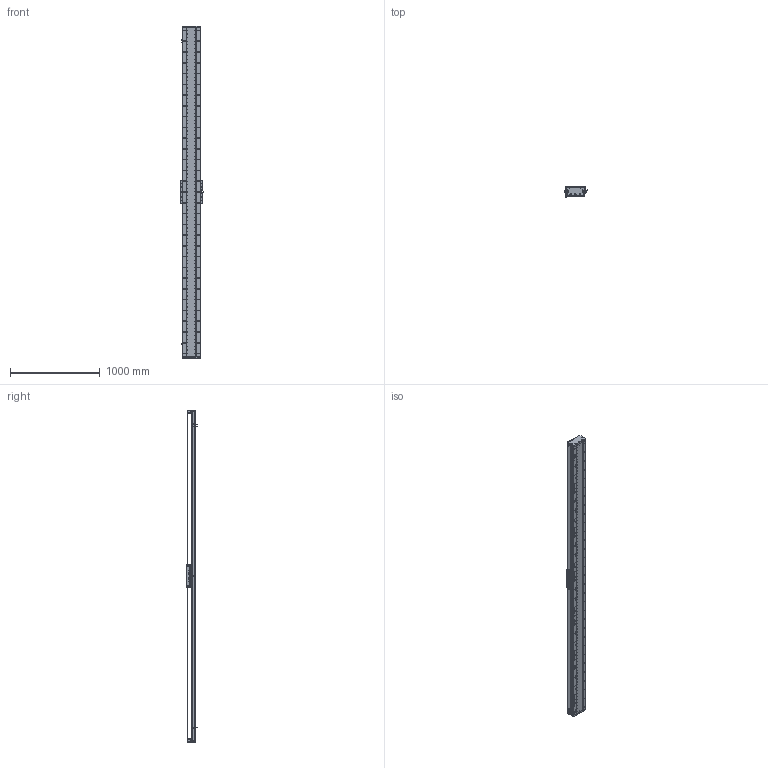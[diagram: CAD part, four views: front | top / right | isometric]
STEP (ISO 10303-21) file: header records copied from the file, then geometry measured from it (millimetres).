
FILE_DESCRIPTION (( 'STEP AP203' ), '1' );
FILE_NAME ('DA-C195-C3-T3360-C010-0.2 眻盄萇儂.STEP', '2025-08-15T01:26:27', ( '' ), ( '' ), 'SwSTEP 2.0', 'SolidWorks 2019', '' );
FILE_SCHEMA (( 'CONFIG_CONTROL_DESIGN' ));
Length unit declared in the file: millimetre
Products named in the file (15): IU-CU195-L 菁釱絳寢; DA-C195-C3-T3360-C010-0.2 眻盄萇儂; DA195詩湍裔啣; CU195-C3賑輸-俋楷; DA195詩湍菜輸; 葩璃 DA95-GT-T-00; LMT黍杅芛; DA165-GYP-00 光电感应片(默认); MS200 棠掑喜S315-T240; IU-CU195-L-00 菁釱(L3660); DA195詩湍郪璃; DA95-HXJ-00 遣喳砎蝶; PM-T45ㄗ侂狟ㄘ; DA-C195-GD-DB-H-00 傷啣; DA195詩湍嶺輸
Assembly tree (29 placements, depth 3):
  DA-C195-C3-T3360-C010-0.2 眻盄萇儂
    DA195詩湍郪璃
      DA195詩湍菜輸  x2
      DA195詩湍裔啣
      DA195詩湍嶺輸  x2
      DA95-HXJ-00 遣喳砎蝶  x8
      DA-C195-GD-DB-H-00 傷啣  x2
    IU-CU195-L 菁釱絳寢
      IU-CU195-L-00 菁釱(L3660)
      葩璃 DA95-GT-T-00  x4
    LMT黍杅芛
    MS200 棠掑喜S315-T240
    PM-T45ㄗ侂狟ㄘ  x3
    DA165-GYP-00 光电感应片(默认)
    CU195-C3賑輸-俋楷
Bounding box: 248 x 115.45 x 3700 mm (x, y, z)
Volume: 20862921.3 mm3; surface area: 6208245.4 mm2
Topology: 86 solids, 118 shells, 4786 faces, 13935 edges, 8849 vertices
Faces by surface type: cylinder 2802, plane 1382, cone 514, torus 52, sphere 36
Entity records: 163087 total; most frequent: CARTESIAN_POINT 47136, ORIENTED_EDGE 24786, DIRECTION 23006, EDGE_CURVE 12393, AXIS2_PLACEMENT_3D 8665, VERTEX_POINT 8051, LINE 5676, VECTOR 5676
